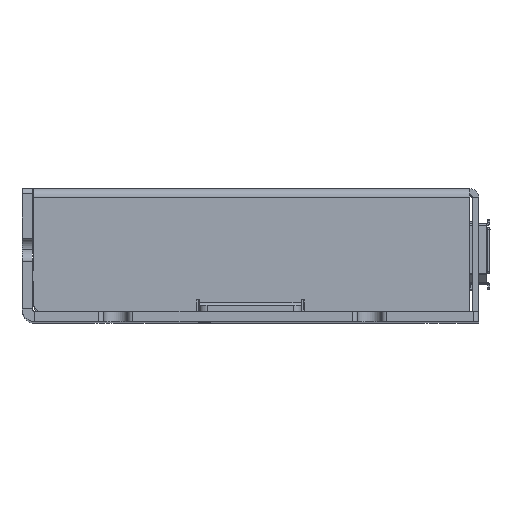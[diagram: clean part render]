
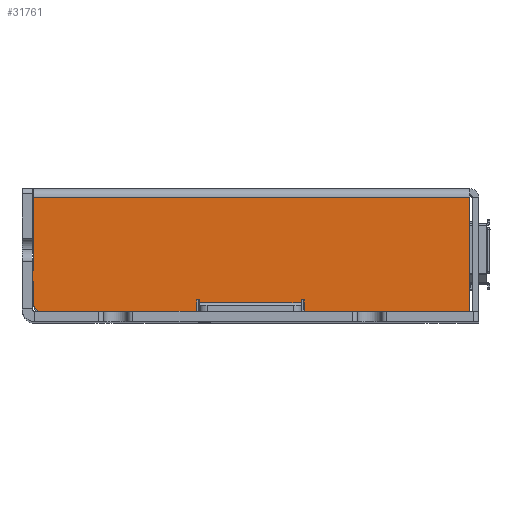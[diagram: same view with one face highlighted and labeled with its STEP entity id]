
A CAD part, top view. The second image highlights one B-rep face of the part: STEP entity #31761.
In plain terms, the highlighted planar face has unit normal (0, 0, 1).
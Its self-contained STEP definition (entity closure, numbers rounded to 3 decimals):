
#453 = ORIENTED_EDGE ( 'NONE', *, *, #128480, .T. ) ;
#989 = VERTEX_POINT ( 'NONE', #16593 ) ;
#2983 = VECTOR ( 'NONE', #94501, 1000. ) ;
#3197 = DIRECTION ( 'NONE',  ( 0., 1., 0. ) ) ;
#4654 = VERTEX_POINT ( 'NONE', #89874 ) ;
#5447 = DIRECTION ( 'NONE',  ( 0., -1., 0. ) ) ;
#5796 = CARTESIAN_POINT ( 'NONE',  ( 3.8, 3.5, 84.2 ) ) ;
#7241 = CARTESIAN_POINT ( 'NONE',  ( 55., 3.7, 84.2 ) ) ;
#8490 = LINE ( 'NONE', #41419, #52886 ) ;
#8619 = VERTEX_POINT ( 'NONE', #85762 ) ;
#9714 = EDGE_CURVE ( 'NONE', #989, #121365, #99088, .T. ) ;
#11257 = VERTEX_POINT ( 'NONE', #99873 ) ;
#12279 = EDGE_CURVE ( 'NONE', #43453, #120966, #61422, .T. ) ;
#12430 = CARTESIAN_POINT ( 'NONE',  ( 88.3, 2., 84.2 ) ) ;
#13614 = VECTOR ( 'NONE', #29786, 1000. ) ;
#15388 = EDGE_CURVE ( 'NONE', #130510, #43813, #65961, .T. ) ;
#15455 = LINE ( 'NONE', #110863, #31097 ) ;
#16593 = CARTESIAN_POINT ( 'NONE',  ( 55.6, 2., 84.2 ) ) ;
#17198 = LINE ( 'NONE', #127380, #50004 ) ;
#17504 = DIRECTION ( 'NONE',  ( 1., 0., 0. ) ) ;
#19049 = VERTEX_POINT ( 'NONE', #101825 ) ;
#19155 = DIRECTION ( 'NONE',  ( 0., 1., 0. ) ) ;
#19778 = DIRECTION ( 'NONE',  ( -1., 0., 0. ) ) ;
#20510 = EDGE_CURVE ( 'NONE', #139223, #989, #114755, .T. ) ;
#23643 = ORIENTED_EDGE ( 'NONE', *, *, #78477, .F. ) ;
#25993 = CARTESIAN_POINT ( 'NONE',  ( 88.3, 25., 84.2 ) ) ;
#28327 = CARTESIAN_POINT ( 'NONE',  ( 0.3, 8., 84.2 ) ) ;
#28765 = VECTOR ( 'NONE', #19155, 1000. ) ;
#29786 = DIRECTION ( 'NONE',  ( 1., 0., 0. ) ) ;
#30066 = DIRECTION ( 'NONE',  ( 0., 0., 1. ) ) ;
#31097 = VECTOR ( 'NONE', #55281, 1000. ) ;
#31761 = ADVANCED_FACE ( 'NONE', ( #100952 ), #41517, .F. ) ;
#33761 = EDGE_CURVE ( 'NONE', #67466, #120966, #124635, .T. ) ;
#34157 = CARTESIAN_POINT ( 'NONE',  ( 88.3, 2., 84.2 ) ) ;
#38790 = CARTESIAN_POINT ( 'NONE',  ( 2.3, 3.5, 84.2 ) ) ;
#39189 = LINE ( 'NONE', #136855, #13614 ) ;
#39648 = CARTESIAN_POINT ( 'NONE',  ( 55.6, 2., 84.2 ) ) ;
#40754 = ORIENTED_EDGE ( 'NONE', *, *, #91812, .F. ) ;
#41419 = CARTESIAN_POINT ( 'NONE',  ( 55.6, 4.3, 84.2 ) ) ;
#41517 = PLANE ( 'NONE',  #92263 ) ;
#43453 = VERTEX_POINT ( 'NONE', #38790 ) ;
#43813 = VERTEX_POINT ( 'NONE', #60494 ) ;
#43921 = LINE ( 'NONE', #28327, #121789 ) ;
#44027 = VECTOR ( 'NONE', #91299, 1000. ) ;
#46925 = CARTESIAN_POINT ( 'NONE',  ( 2.3, 8., 84.2 ) ) ;
#48150 = CARTESIAN_POINT ( 'NONE',  ( 2.3, 2., 84.2 ) ) ;
#48746 = VECTOR ( 'NONE', #73662, 1000. ) ;
#48933 = DIRECTION ( 'NONE',  ( 0., 1., 0. ) ) ;
#50004 = VECTOR ( 'NONE', #5447, 1000. ) ;
#51939 = EDGE_CURVE ( 'NONE', #142613, #4654, #39189, .T. ) ;
#52886 = VECTOR ( 'NONE', #64867, 1000. ) ;
#55281 = DIRECTION ( 'NONE',  ( -1., 0., 0. ) ) ;
#57823 = ORIENTED_EDGE ( 'NONE', *, *, #33761, .T. ) ;
#60494 = CARTESIAN_POINT ( 'NONE',  ( 0.3, 10., 84.2 ) ) ;
#61149 = ORIENTED_EDGE ( 'NONE', *, *, #9714, .F. ) ;
#61422 = LINE ( 'NONE', #48150, #141733 ) ;
#62269 = LINE ( 'NONE', #148222, #78677 ) ;
#63042 = CARTESIAN_POINT ( 'NONE',  ( 55., 3.7, 84.2 ) ) ;
#63869 = DIRECTION ( 'NONE',  ( 0., 1., 0. ) ) ;
#64867 = DIRECTION ( 'NONE',  ( -1., 0., 0. ) ) ;
#65484 = EDGE_CURVE ( 'NONE', #130510, #142613, #148934, .T. ) ;
#65961 = LINE ( 'NONE', #138634, #134241 ) ;
#66359 = EDGE_LOOP ( 'NONE', ( #87461, #133772, #40754, #66500, #86283, #119367, #118716, #23643, #103246, #61149, #98261, #146836, #116898, #136289, #71531, #453, #57823 ) ) ;
#66500 = ORIENTED_EDGE ( 'NONE', *, *, #98764, .F. ) ;
#67466 = VERTEX_POINT ( 'NONE', #98508 ) ;
#71531 = ORIENTED_EDGE ( 'NONE', *, *, #15388, .T. ) ;
#73568 = CARTESIAN_POINT ( 'NONE',  ( 35., 4.3, 84.2 ) ) ;
#73662 = DIRECTION ( 'NONE',  ( 0., -1., 0. ) ) ;
#75998 = DIRECTION ( 'NONE',  ( 0., -1., 0. ) ) ;
#76721 = CARTESIAN_POINT ( 'NONE',  ( 55., 4.3, 84.2 ) ) ;
#77465 = DIRECTION ( 'NONE',  ( 0., 0., -1. ) ) ;
#78477 = EDGE_CURVE ( 'NONE', #118285, #91765, #17198, .T. ) ;
#78677 = VECTOR ( 'NONE', #109973, 1000. ) ;
#80343 = VERTEX_POINT ( 'NONE', #73568 ) ;
#84782 = VECTOR ( 'NONE', #17504, 1000. ) ;
#85762 = CARTESIAN_POINT ( 'NONE',  ( 3.8, 2., 84.2 ) ) ;
#86209 = EDGE_CURVE ( 'NONE', #91765, #147268, #115174, .T. ) ;
#86283 = ORIENTED_EDGE ( 'NONE', *, *, #120806, .F. ) ;
#87461 = ORIENTED_EDGE ( 'NONE', *, *, #12279, .F. ) ;
#87968 = VECTOR ( 'NONE', #19778, 1000. ) ;
#89874 = CARTESIAN_POINT ( 'NONE',  ( 88.3, 24.5, 84.2 ) ) ;
#91299 = DIRECTION ( 'NONE',  ( -1., 0., 0. ) ) ;
#91765 = VERTEX_POINT ( 'NONE', #63042 ) ;
#91812 = EDGE_CURVE ( 'NONE', #19049, #8619, #62269, .T. ) ;
#92070 = CIRCLE ( 'NONE', #149381, 1.5 ) ;
#92263 = AXIS2_PLACEMENT_3D ( 'NONE', #125157, #77465, #3197 ) ;
#94501 = DIRECTION ( 'NONE',  ( 0., -1., 0. ) ) ;
#98261 = ORIENTED_EDGE ( 'NONE', *, *, #20510, .F. ) ;
#98508 = CARTESIAN_POINT ( 'NONE',  ( 0.3, 8., 84.2 ) ) ;
#98670 = EDGE_CURVE ( 'NONE', #121365, #118285, #8490, .T. ) ;
#98764 = EDGE_CURVE ( 'NONE', #11257, #19049, #105430, .T. ) ;
#99088 = LINE ( 'NONE', #39648, #126496 ) ;
#99873 = CARTESIAN_POINT ( 'NONE',  ( 34.4, 4.3, 84.2 ) ) ;
#100952 = FACE_OUTER_BOUND ( 'NONE', #66359, .T. ) ;
#101045 = EDGE_CURVE ( 'NONE', #147268, #80343, #102926, .T. ) ;
#101825 = CARTESIAN_POINT ( 'NONE',  ( 34.4, 2., 84.2 ) ) ;
#102926 = LINE ( 'NONE', #105192, #115739 ) ;
#103246 = ORIENTED_EDGE ( 'NONE', *, *, #98670, .F. ) ;
#104981 = EDGE_CURVE ( 'NONE', #4654, #139223, #147110, .T. ) ;
#105192 = CARTESIAN_POINT ( 'NONE',  ( 35., 3.7, 84.2 ) ) ;
#105430 = LINE ( 'NONE', #117177, #2983 ) ;
#108903 = CARTESIAN_POINT ( 'NONE',  ( 2.3, 24.5, 84.2 ) ) ;
#109973 = DIRECTION ( 'NONE',  ( -1., 0., 0. ) ) ;
#110863 = CARTESIAN_POINT ( 'NONE',  ( 35., 4.3, 84.2 ) ) ;
#114755 = LINE ( 'NONE', #34157, #44027 ) ;
#114957 = EDGE_CURVE ( 'NONE', #43453, #8619, #92070, .T. ) ;
#115174 = LINE ( 'NONE', #7241, #87968 ) ;
#115426 = DIRECTION ( 'NONE',  ( 0., 1., 0. ) ) ;
#115739 = VECTOR ( 'NONE', #115426, 1000. ) ;
#116898 = ORIENTED_EDGE ( 'NONE', *, *, #51939, .F. ) ;
#117177 = CARTESIAN_POINT ( 'NONE',  ( 34.4, 4.3, 84.2 ) ) ;
#118285 = VERTEX_POINT ( 'NONE', #76721 ) ;
#118716 = ORIENTED_EDGE ( 'NONE', *, *, #86209, .F. ) ;
#119367 = ORIENTED_EDGE ( 'NONE', *, *, #101045, .F. ) ;
#119607 = CARTESIAN_POINT ( 'NONE',  ( 35., 3.7, 84.2 ) ) ;
#120806 = EDGE_CURVE ( 'NONE', #80343, #11257, #15455, .T. ) ;
#120966 = VERTEX_POINT ( 'NONE', #141968 ) ;
#121365 = VERTEX_POINT ( 'NONE', #133118 ) ;
#121789 = VECTOR ( 'NONE', #75998, 1000. ) ;
#124635 = LINE ( 'NONE', #46925, #84782 ) ;
#125157 = CARTESIAN_POINT ( 'NONE',  ( 45., 25., 84.2 ) ) ;
#125442 = DIRECTION ( 'NONE',  ( 0., 1., 0. ) ) ;
#126496 = VECTOR ( 'NONE', #63869, 1000. ) ;
#127380 = CARTESIAN_POINT ( 'NONE',  ( 55., 4.3, 84.2 ) ) ;
#128480 = EDGE_CURVE ( 'NONE', #43813, #67466, #43921, .T. ) ;
#130510 = VERTEX_POINT ( 'NONE', #153503 ) ;
#133118 = CARTESIAN_POINT ( 'NONE',  ( 55.6, 4.3, 84.2 ) ) ;
#133772 = ORIENTED_EDGE ( 'NONE', *, *, #114957, .T. ) ;
#134241 = VECTOR ( 'NONE', #137081, 1000. ) ;
#136289 = ORIENTED_EDGE ( 'NONE', *, *, #65484, .F. ) ;
#136855 = CARTESIAN_POINT ( 'NONE',  ( 88.3, 24.5, 84.2 ) ) ;
#137081 = DIRECTION ( 'NONE',  ( -1., 0., 0. ) ) ;
#137198 = CARTESIAN_POINT ( 'NONE',  ( 2.3, 2., 84.2 ) ) ;
#138634 = CARTESIAN_POINT ( 'NONE',  ( 2.3, 10., 84.2 ) ) ;
#139223 = VERTEX_POINT ( 'NONE', #12430 ) ;
#141733 = VECTOR ( 'NONE', #48933, 1000. ) ;
#141968 = CARTESIAN_POINT ( 'NONE',  ( 2.3, 8., 84.2 ) ) ;
#142613 = VERTEX_POINT ( 'NONE', #108903 ) ;
#146836 = ORIENTED_EDGE ( 'NONE', *, *, #104981, .F. ) ;
#147110 = LINE ( 'NONE', #25993, #48746 ) ;
#147268 = VERTEX_POINT ( 'NONE', #119607 ) ;
#148222 = CARTESIAN_POINT ( 'NONE',  ( 88.3, 2., 84.2 ) ) ;
#148934 = LINE ( 'NONE', #137198, #28765 ) ;
#149381 = AXIS2_PLACEMENT_3D ( 'NONE', #5796, #30066, #125442 ) ;
#153503 = CARTESIAN_POINT ( 'NONE',  ( 2.3, 10., 84.2 ) ) ;
